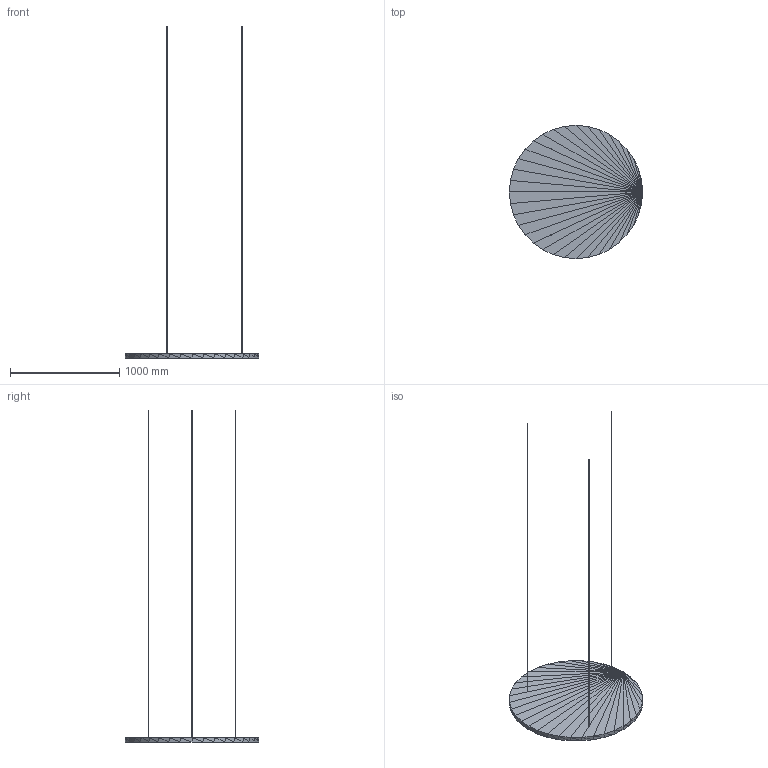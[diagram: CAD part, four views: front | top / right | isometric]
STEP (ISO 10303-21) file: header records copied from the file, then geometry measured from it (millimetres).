
FILE_DESCRIPTION(('ISINAC STEP AP214'),'2;1');
FILE_NAME('ISINAC_CIR.1220_40mm_COLGADO','2026-05-03T10:49:20',('ISINAC'),('www.isinac.com'),'ISINAC BIM Generator 1.0','','');
FILE_SCHEMA(('AUTOMOTIVE_DESIGN'));
Length unit declared in the file: millimetre
Products named in the file (1): ISINAC_CIR.1220_40mm_COLGADO
Bounding box: 1220 x 1220 x 3040 mm (x, y, z)
Surface area: 2560272 mm2 (no closed solid volume)
Topology: 0 solids, 200 shells, 200 faces, 600 edges, 600 vertices
Faces by surface type: plane 200
Entity records: 2213 total; most frequent: CARTESIAN_POINT 800, DIRECTION 400, POLY_LOOP 200, FACE_OUTER_BOUND 200, AXIS2_PLACEMENT_3D 200, PLANE 200, FACE_SURFACE 200, CLOSED_SHELL 1
